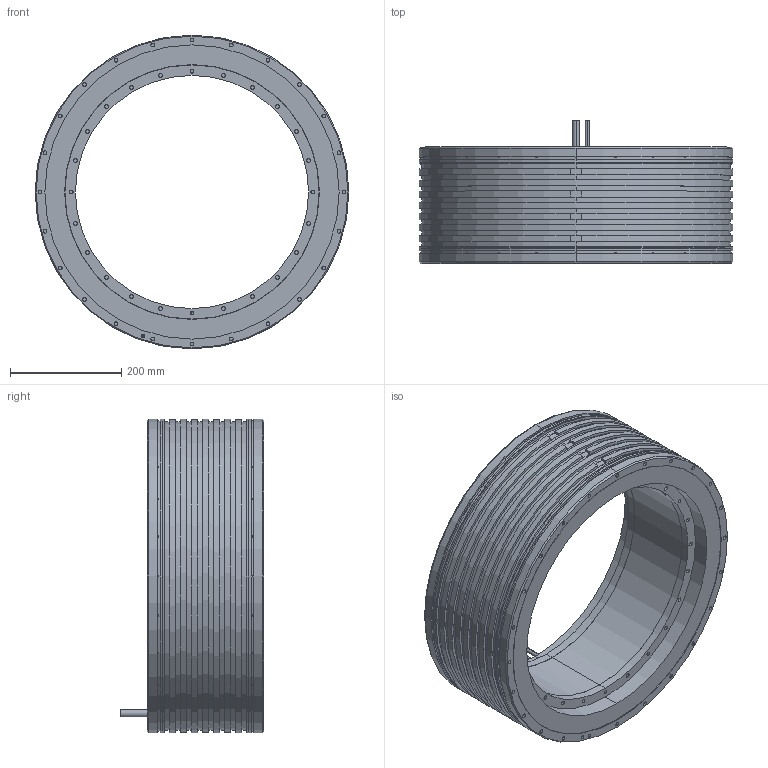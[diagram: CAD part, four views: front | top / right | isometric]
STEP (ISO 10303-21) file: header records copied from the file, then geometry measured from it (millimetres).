
FILE_DESCRIPTION (( 'STEP AP203' ), '1' );
FILE_NAME ('TM-2-GF.STEP', '2021-07-06T08:46:01', ( '' ), ( '' ), 'SwSTEP 2.0', 'SolidWorks 2015', '' );
FILE_SCHEMA (( 'CONFIG_CONTROL_DESIGN' ));
Length unit declared in the file: millimetre
Products named in the file (3): TM-2-GX_rotor_TM-2-GF_rotor; TM-2-GX_stator_TM-2-GF_stator; TM-2-GF
Assembly tree (2 placements, depth 2):
  TM-2-GF
    TM-2-GX_stator_TM-2-GF_stator
    TM-2-GX_rotor_TM-2-GF_rotor
Bounding box: 565 x 259 x 565 mm (x, y, z)
Volume: 20886405.7 mm3; surface area: 1509139.3 mm2
Topology: 2 solids, 2 shells, 418 faces, 876 edges, 564 vertices
Faces by surface type: cylinder 257, plane 145, cone 16
Entity records: 11611 total; most frequent: DIRECTION 2232, CARTESIAN_POINT 1855, ORIENTED_EDGE 1736, AXIS2_PLACEMENT_3D 941, EDGE_CURVE 868, VERTEX_POINT 564, EDGE_LOOP 532, CIRCLE 518
